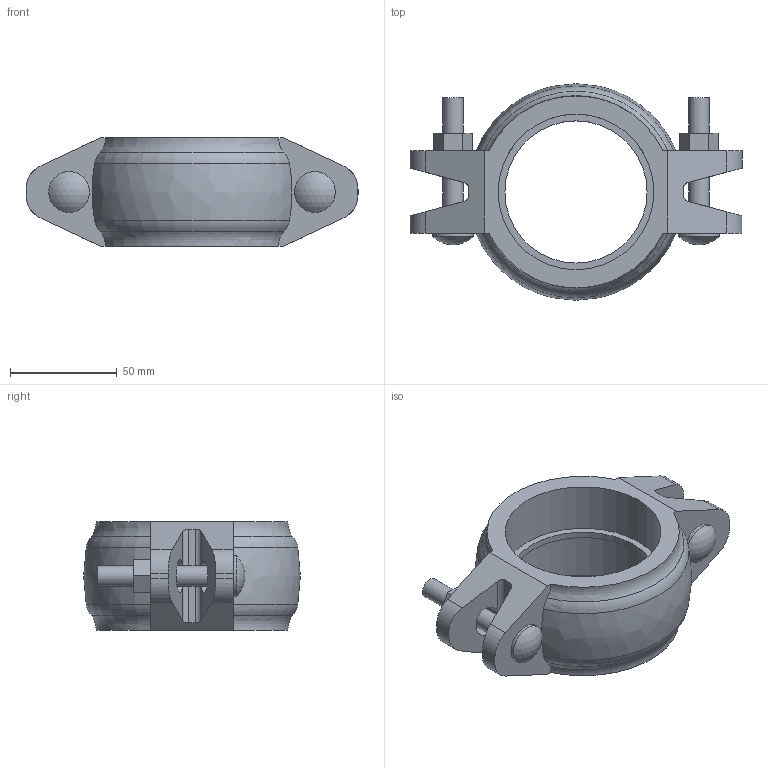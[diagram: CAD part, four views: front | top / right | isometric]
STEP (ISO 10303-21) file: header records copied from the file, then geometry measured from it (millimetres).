
FILE_DESCRIPTION(/* description */ ('VICTAULIC STYLE 009N FIRELOCK EZ RIGID COUPLING','CAx-IF Rec.Pracs.---Representation and Presentation of Product Manufacturing Information (PMI)---4.0---2014-10-13'),/* implementation_level */ '2;1');
FILE_NAME(/* name */ 'C:\Users\Vjadhav\AppData\Roaming\Autodesk\ApplicationPlugins\Victaulic.Temp\A361\Victaulic_FP-FireLock_Coupling Rigid_IR_Style 009N (OGS)_2.5 (65).stp',/* time_stamp */ '2022-03-23T18:54:36+05:00',/* author */ ('Vjadhav'),/* organization */ ('Victaulic'),/* preprocessor_version */ 'ST-DEVELOPER v17.2',/* originating_system */ 'Autodesk Inventor 2019',/* authorisation */ '');
FILE_SCHEMA (('AP242_MANAGED_MODEL_BASED_3D_ENGINEERING_MIM_LF { 1 0 10303 442 1 1 4 }'));
Length unit declared in the file: inch
Products named in the file (2): 009N-02.5; 009N-02.5_1
Assembly tree (1 placements, depth 2):
  009N-02.5
    009N-02.5_1
Bounding box: 155.7 x 101.6 x 50.8 mm (x, y, z)
Volume: 225960.1 mm3; surface area: 48885.2 mm2
Topology: 1 solids, 1 shells, 91 faces, 263 edges, 178 vertices
Faces by surface type: plane 50, cylinder 29, torus 8, sphere 2, bspline 2
Full cylindrical faces by diameter (mm): 9.525 x4, 19.05 x2, 66.675 x1, 73.025 x2
Entity records: 3423 total; most frequent: CARTESIAN_POINT 799, ORIENTED_EDGE 526, DIRECTION 505, EDGE_CURVE 263, VERTEX_POINT 178, AXIS2_PLACEMENT_3D 178, LINE 149, VECTOR 149
